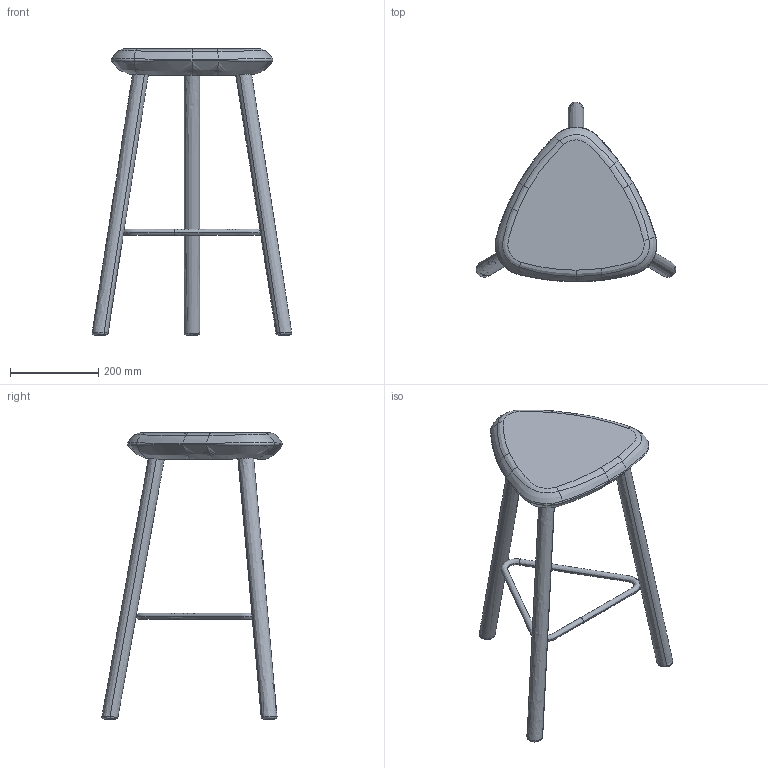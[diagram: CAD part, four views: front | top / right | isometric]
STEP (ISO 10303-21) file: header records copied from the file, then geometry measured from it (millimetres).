
FILE_DESCRIPTION(/* description */ (''),/* implementation_level */ '2;1');
FILE_NAME(/* name */ 'Pick base legno h65',/* time_stamp */ '2016-11-10T12:13:42+01:00',/* author */ (''),/* organization */ (''),/* preprocessor_version */ 'ST-DEVELOPER v10',/* originating_system */ '',/* authorisation */ '');
FILE_SCHEMA (('CONFIG_CONTROL_DESIGN'));
Length unit declared in the file: millimetre
Products named in the file (1): 1
Bounding box: 453.18 x 408.67 x 649 mm (x, y, z)
Volume: 6513960.1 mm3; surface area: 585269.7 mm2
Topology: 6 solids, 6 shells, 81 faces, 170 edges, 99 vertices
Faces by surface type: bspline 65, plane 16
Entity records: 25329 total; most frequent: CARTESIAN_POINT 24281, ORIENTED_EDGE 340, EDGE_CURVE 170, VERTEX_POINT 99, ADVANCED_FACE 81, FACE_OUTER_BOUND 81, EDGE_LOOP 81, B_SPLINE_CURVE_WITH_KNOTS 44
